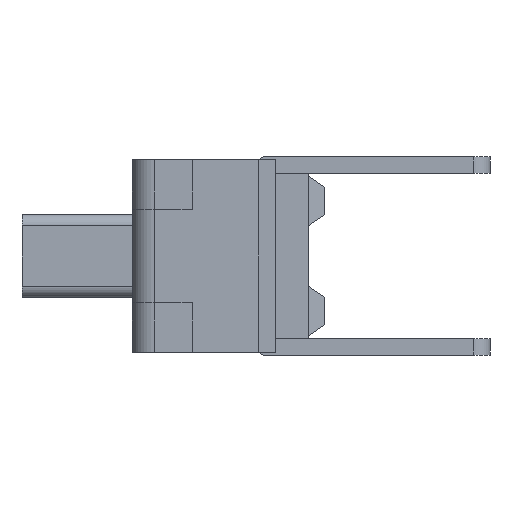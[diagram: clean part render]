
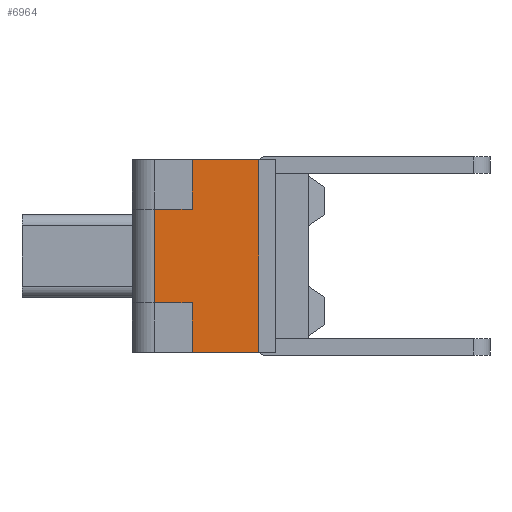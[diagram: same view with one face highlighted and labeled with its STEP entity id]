
A CAD part, left-side view. The second image highlights one B-rep face of the part: STEP entity #6964.
In plain terms, the highlighted planar face has unit normal (-1, 0, 0).
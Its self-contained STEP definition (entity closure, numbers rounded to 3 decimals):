
#1115 = DIRECTION ( 'NONE',  ( 0., -1., 0. ) ) ;
#1116 = VECTOR ( 'NONE', #1115, 1000. ) ;
#1117 = CARTESIAN_POINT ( 'NONE',  ( -4.5, -2.05, 0.85 ) ) ;
#1118 = LINE ( 'NONE', #1117, #1116 ) ;
#1120 = CARTESIAN_POINT ( 'NONE',  ( -4.5, -0.842, 0.85 ) ) ;
#1121 = DIRECTION ( 'NONE',  ( 0., 0., -1. ) ) ;
#1122 = VECTOR ( 'NONE', #1121, 1000. ) ;
#1123 = CARTESIAN_POINT ( 'NONE',  ( -4.5, -0.842, 1.75 ) ) ;
#1124 = LINE ( 'NONE', #1123, #1122 ) ;
#1301 = CARTESIAN_POINT ( 'NONE',  ( -4.5, -0.842, 1.75 ) ) ;
#1333 = DIRECTION ( 'NONE',  ( 0., 0., -1. ) ) ;
#1334 = DIRECTION ( 'NONE',  ( 1., 0., 0. ) ) ;
#1335 = CARTESIAN_POINT ( 'NONE',  ( -4.5, -2.05, 1.75 ) ) ;
#1336 = AXIS2_PLACEMENT_3D ( 'NONE', #1335, #1334, #1333 ) ;
#1337 = PLANE ( 'NONE',  #1336 ) ;
#1352 = FACE_OUTER_BOUND ( 'NONE', #7004, .T. ) ;
#1426 = DIRECTION ( 'NONE',  ( 0., -1., 0. ) ) ;
#1427 = VECTOR ( 'NONE', #1426, 1000. ) ;
#1428 = CARTESIAN_POINT ( 'NONE',  ( -4.5, -2.05, 1.75 ) ) ;
#1429 = LINE ( 'NONE', #1428, #1427 ) ;
#1494 = DIRECTION ( 'NONE',  ( 0., 0., -1. ) ) ;
#1495 = VECTOR ( 'NONE', #1494, 1000. ) ;
#1496 = CARTESIAN_POINT ( 'NONE',  ( -4.5, -0.842, -0.85 ) ) ;
#1497 = LINE ( 'NONE', #1496, #1495 ) ;
#1498 = CARTESIAN_POINT ( 'NONE',  ( -4.5, -0.842, -0.85 ) ) ;
#1499 = DIRECTION ( 'NONE',  ( 0., 1., 0. ) ) ;
#1500 = VECTOR ( 'NONE', #1499, 1000. ) ;
#1501 = CARTESIAN_POINT ( 'NONE',  ( -4.5, -2.05, -0.85 ) ) ;
#1502 = LINE ( 'NONE', #1501, #1500 ) ;
#1587 = DIRECTION ( 'NONE',  ( 0., 1., 0. ) ) ;
#1588 = VECTOR ( 'NONE', #1587, 1000. ) ;
#1589 = CARTESIAN_POINT ( 'NONE',  ( -4.5, -2.05, -1.75 ) ) ;
#1590 = LINE ( 'NONE', #1589, #1588 ) ;
#1598 = CARTESIAN_POINT ( 'NONE',  ( -4.5, -0.842, -1.75 ) ) ;
#1661 = CARTESIAN_POINT ( 'NONE',  ( -4.5, -0.153, 0.85 ) ) ;
#1662 = DIRECTION ( 'NONE',  ( 0., 0., 1. ) ) ;
#1663 = VECTOR ( 'NONE', #1662, 1000. ) ;
#1664 = CARTESIAN_POINT ( 'NONE',  ( -4.5, -0.153, 1.75 ) ) ;
#1665 = LINE ( 'NONE', #1664, #1663 ) ;
#1709 = CARTESIAN_POINT ( 'NONE',  ( -4.5, -0.153, -0.85 ) ) ;
#1732 = DIRECTION ( 'NONE',  ( 0., 0., -1. ) ) ;
#1733 = VECTOR ( 'NONE', #1732, 1000. ) ;
#1734 = CARTESIAN_POINT ( 'NONE',  ( -4.5, -2.05, 1.75 ) ) ;
#1740 = LINE ( 'NONE', #1734, #1733 ) ;
#1767 = CARTESIAN_POINT ( 'NONE',  ( -4.5, -2.05, 1.75 ) ) ;
#1768 = CARTESIAN_POINT ( 'NONE',  ( -4.5, -2.05, -1.75 ) ) ;
#6919 = ORIENTED_EDGE ( 'NONE', *, *, #6920, .T. ) ;
#6920 = EDGE_CURVE ( 'NONE', #6959, #6921, #1124, .T. ) ;
#6921 = VERTEX_POINT ( 'NONE', #1120 ) ;
#6922 = ORIENTED_EDGE ( 'NONE', *, *, #6923, .F. ) ;
#6923 = EDGE_CURVE ( 'NONE', #7086, #6921, #1118, .T. ) ;
#6924 = ORIENTED_EDGE ( 'NONE', *, *, #7084, .F. ) ;
#6959 = VERTEX_POINT ( 'NONE', #1301 ) ;
#6964 = ADVANCED_FACE ( 'NONE', ( #1352 ), #1337, .F. ) ;
#6996 = EDGE_CURVE ( 'NONE', #6959, #7126, #1429, .T. ) ;
#7004 = EDGE_LOOP ( 'NONE', ( #7005, #7008, #7010, #7011, #7012, #6919, #6922, #6924 ) ) ;
#7005 = ORIENTED_EDGE ( 'NONE', *, *, #7006, .F. ) ;
#7006 = EDGE_CURVE ( 'NONE', #7007, #7111, #1502, .T. ) ;
#7007 = VERTEX_POINT ( 'NONE', #1498 ) ;
#7008 = ORIENTED_EDGE ( 'NONE', *, *, #7009, .T. ) ;
#7009 = EDGE_CURVE ( 'NONE', #7007, #7064, #1497, .T. ) ;
#7010 = ORIENTED_EDGE ( 'NONE', *, *, #7049, .F. ) ;
#7011 = ORIENTED_EDGE ( 'NONE', *, *, #7119, .F. ) ;
#7012 = ORIENTED_EDGE ( 'NONE', *, *, #6996, .F. ) ;
#7049 = EDGE_CURVE ( 'NONE', #7122, #7064, #1590, .T. ) ;
#7064 = VERTEX_POINT ( 'NONE', #1598 ) ;
#7084 = EDGE_CURVE ( 'NONE', #7111, #7086, #1665, .T. ) ;
#7086 = VERTEX_POINT ( 'NONE', #1661 ) ;
#7111 = VERTEX_POINT ( 'NONE', #1709 ) ;
#7119 = EDGE_CURVE ( 'NONE', #7126, #7122, #1740, .T. ) ;
#7122 = VERTEX_POINT ( 'NONE', #1768 ) ;
#7126 = VERTEX_POINT ( 'NONE', #1767 ) ;
